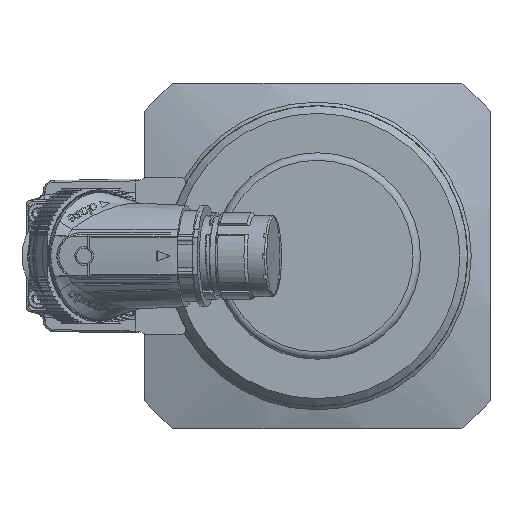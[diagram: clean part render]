
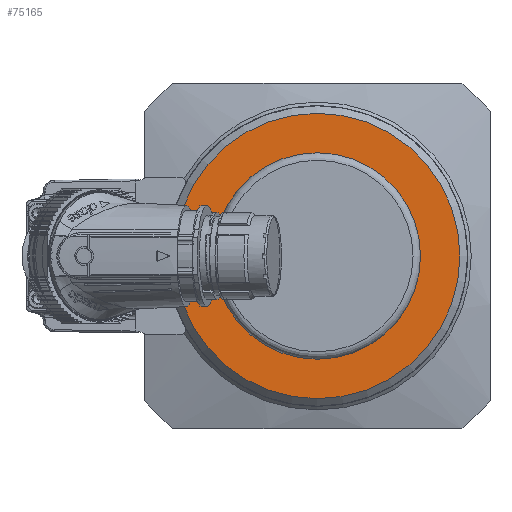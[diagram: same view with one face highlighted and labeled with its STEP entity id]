
A CAD part, left-side view. The second image highlights one B-rep face of the part: STEP entity #75165.
In plain terms, the highlighted planar face has unit normal (-1, 0, 0).
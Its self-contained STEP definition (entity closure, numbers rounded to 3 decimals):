
#610 = CARTESIAN_POINT ( 'NONE',  ( -445.9, 27.5, 0. ) ) ;
#1113 = VERTEX_POINT ( 'NONE', #47433 ) ;
#9133 = AXIS2_PLACEMENT_3D ( 'NONE', #26421, #58948, #45955 ) ;
#14618 = ORIENTED_EDGE ( 'NONE', *, *, #17269, .T. ) ;
#16494 = CIRCLE ( 'NONE', #41368, 37.999 ) ;
#17269 = EDGE_CURVE ( 'NONE', #83106, #83106, #16494, .T. ) ;
#20002 = CARTESIAN_POINT ( 'NONE',  ( -445.9, 0., 0. ) ) ;
#23369 = CARTESIAN_POINT ( 'NONE',  ( -445.9, 0., 37.999 ) ) ;
#26123 = DIRECTION ( 'NONE',  ( -1., 0., 0. ) ) ;
#26421 = CARTESIAN_POINT ( 'NONE',  ( -445.9, 0., 0. ) ) ;
#27388 = FACE_BOUND ( 'NONE', #65207, .T. ) ;
#32226 = DIRECTION ( 'NONE',  ( 0., 0., 1. ) ) ;
#33010 = EDGE_LOOP ( 'NONE', ( #14618 ) ) ;
#33063 = FACE_OUTER_BOUND ( 'NONE', #33010, .T. ) ;
#41368 = AXIS2_PLACEMENT_3D ( 'NONE', #20002, #52880, #66754 ) ;
#43893 = ORIENTED_EDGE ( 'NONE', *, *, #51815, .T. ) ;
#45955 = DIRECTION ( 'NONE',  ( 0., 0., -1. ) ) ;
#47433 = CARTESIAN_POINT ( 'NONE',  ( -445.9, 0., -27.5 ) ) ;
#51815 = EDGE_CURVE ( 'NONE', #1113, #1113, #60278, .T. ) ;
#52880 = DIRECTION ( 'NONE',  ( -1., 0., 0. ) ) ;
#54164 = AXIS2_PLACEMENT_3D ( 'NONE', #610, #26123, #32226 ) ;
#58948 = DIRECTION ( 'NONE',  ( 1., 0., 0. ) ) ;
#60278 = CIRCLE ( 'NONE', #9133, 27.5 ) ;
#65207 = EDGE_LOOP ( 'NONE', ( #43893 ) ) ;
#66426 = PLANE ( 'NONE',  #54164 ) ;
#66754 = DIRECTION ( 'NONE',  ( 0., 0., 1. ) ) ;
#75165 = ADVANCED_FACE ( 'NONE', ( #33063, #27388 ), #66426, .T. ) ;
#83106 = VERTEX_POINT ( 'NONE', #23369 ) ;
